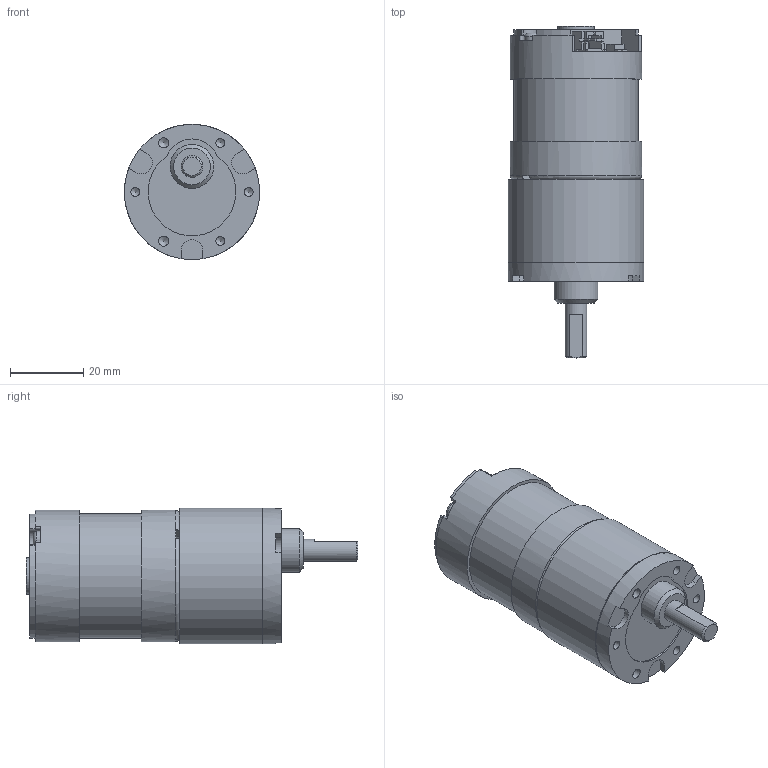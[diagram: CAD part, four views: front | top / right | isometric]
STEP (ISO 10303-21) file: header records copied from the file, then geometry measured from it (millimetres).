
FILE_DESCRIPTION((''),'2;1');
FILE_NAME('\\Servert1600\threepeace\2015homepage\STP\HP-Data_GM_3D_STEP\TP-3641AA,BA,CA,DA,EA（ドライバ内蔵）-KJ-120～300-P000-12,24.stp','2016-11-11T13:09:28',('Administrator'),(''),'Autodesk Inventor 2010','Autodesk Inventor 2010','');
FILE_SCHEMA(('AUTOMOTIVE_DESIGN { 1 0 10303 214 1 1 1 1 }'));
Length unit declared in the file: millimetre
Products named in the file (6): TP-3641AA,BA,CA,DA,EA（ドライバ内蔵）-KJ-120～300-P000-12,24; KJ-5; TP-3641AA,BA,CA-24; TP-3641BA,l; S2B-PH-SM4-TB; SMD-TRIMMERS
Assembly tree (5 placements, depth 3):
  TP-3641AA,BA,CA,DA,EA（ドライバ内蔵）-KJ-120～300-P000-12,24
    KJ-5
    TP-3641AA,BA,CA-24
      TP-3641BA,l
      S2B-PH-SM4-TB
      SMD-TRIMMERS
Bounding box: 37 x 90.8 x 37 mm (x, y, z)
Volume: 69013.9 mm3; surface area: 14113 mm2
Topology: 5 solids, 5 shells, 242 faces, 640 edges, 423 vertices
Faces by surface type: plane 152, cylinder 46, bspline 37, torus 4, cone 3
Full cylindrical faces by diameter (mm): 1.9 x1, 2.5 x2, 5 x1, 6 x1, 10 x2, 12 x1, 34.1 x1, 36 x2, 36.6 x1, 37 x2
Entity records: 7709 total; most frequent: CARTESIAN_POINT 1866, DIRECTION 1127, ORIENTED_EDGE 1094, EDGE_CURVE 547, VECTOR 387, LINE 387, VERTEX_POINT 384, AXIS2_PLACEMENT_3D 370
